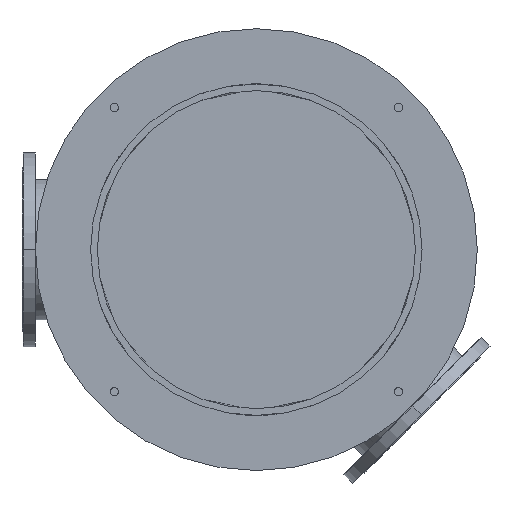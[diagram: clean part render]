
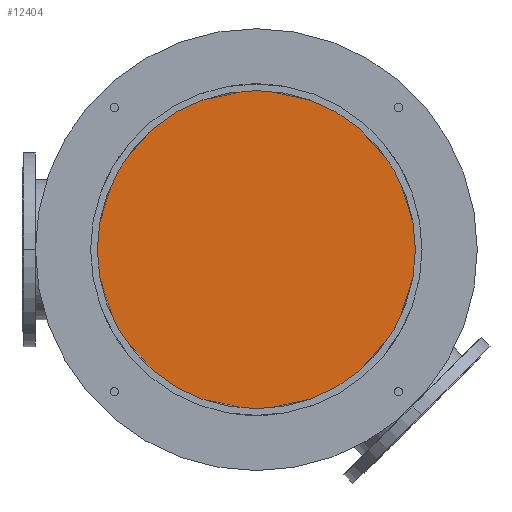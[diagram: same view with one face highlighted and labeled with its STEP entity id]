
A CAD part, front view. The second image highlights one B-rep face of the part: STEP entity #12404.
In plain terms, the highlighted planar face has unit normal (0, -1, 0).
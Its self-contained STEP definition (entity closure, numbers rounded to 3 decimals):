
#3016=CARTESIAN_POINT('',(0.,1466.,0.));
#3017=DIRECTION('',(0.,-1.,0.));
#3018=DIRECTION('',(0.,0.,-1.));
#3019=AXIS2_PLACEMENT_3D('',#3016,#3017,#3018);
#3058=CARTESIAN_POINT('',(0.,1466.,0.));
#3059=DIRECTION('',(0.,-1.,0.));
#3060=DIRECTION('',(0.,0.,1.));
#3061=AXIS2_PLACEMENT_3D('',#3058,#3059,#3060);
#7563=CARTESIAN_POINT('',(0.,1466.,560.));
#7564=CARTESIAN_POINT('',(0.,1466.,-560.));
#7565=VERTEX_POINT('',#7563);
#7566=VERTEX_POINT('',#7564);
#12395=CARTESIAN_POINT('',(0.,1466.,0.));
#12396=DIRECTION('',(0.,1.,0.));
#12397=DIRECTION('',(0.,0.,-1.));
#12398=AXIS2_PLACEMENT_3D('',#12395,#12396,#12397);
#12399=PLANE('',#12398);
#12400=ORIENTED_EDGE('',*,*,#12378,.F.);
#12401=ORIENTED_EDGE('',*,*,#12306,.F.);
#12402=EDGE_LOOP('',(#12400,#12401));
#12403=FACE_OUTER_BOUND('',#12402,.F.);
#12404=ADVANCED_FACE('',(#12403),#12399,.F.);
#3020=CIRCLE('',#3019,560.);
#3062=CIRCLE('',#3061,560.);
#12306=EDGE_CURVE('',#7566,#7565,#3020,.T.);
#12378=EDGE_CURVE('',#7565,#7566,#3062,.T.);
